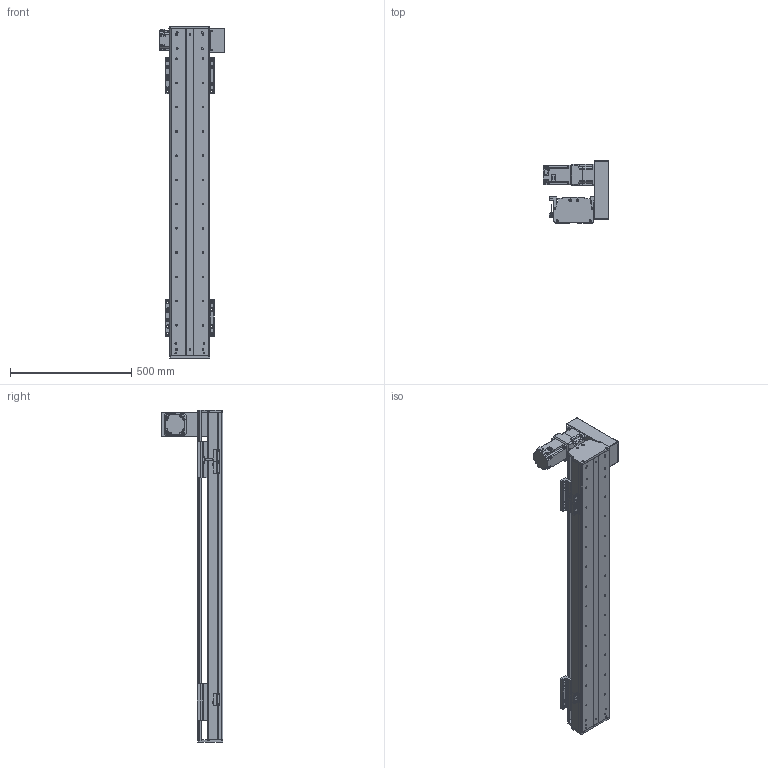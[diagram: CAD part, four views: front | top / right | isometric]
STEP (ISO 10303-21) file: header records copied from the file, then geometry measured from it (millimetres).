
FILE_DESCRIPTION(/* description */ (''),/* implementation_level */ '2;1');
FILE_NAME(/* name */ 'C:\Users\PC\Desktop\3D도면\STEP\새 폴더\DSB165-UR7G-W1000-L.stp',/* time_stamp */ '2018-06-25T15:17:24+09:00',/* author */ ('PC'),/* organization */ (''),/* preprocessor_version */ 'ST-DEVELOPER v16.5',/* originating_system */ 'Autodesk Inventor 2017',/* authorisation */ '');
FILE_SCHEMA (('AUTOMOTIVE_DESIGN { 1 0 10303 214 3 1 1 }'));
Length unit declared in the file: millimetre
Products named in the file (12): DSB165-UL7G-W1000-R_MIR; DSB165-BASE-L_MIR; hg-kr73__MIR; ab0901-p0401300102_MIR; 11-DSB165 BELT COVER_MIR; 12-DSB165-REAR COVER_MIR; 14-DSB165-FRONT COVER_MIR; DSB165-UP COVER_MIR; DSR165-SENSOR DOG_MIR; pm-y65_step_MIR; SENSOR BRACKET(EE-SX674A)_MIR; DSB165-TABLE(MSB20S)_MIR
Assembly tree (16 placements, depth 2):
  DSB165-UL7G-W1000-R_MIR
    DSB165-BASE-L_MIR
    hg-kr73__MIR
    ab0901-p0401300102_MIR
    11-DSB165 BELT COVER_MIR
    12-DSB165-REAR COVER_MIR
    14-DSB165-FRONT COVER_MIR
    DSB165-UP COVER_MIR
    DSR165-SENSOR DOG_MIR
    pm-y65_step_MIR  x3
    SENSOR BRACKET(EE-SX674A)_MIR  x3
    DSB165-TABLE(MSB20S)_MIR  x2
Bounding box: 270 x 254 x 1370 mm (x, y, z)
Volume: 8867023.8 mm3; surface area: 2053109.4 mm2
Topology: 17 solids, 17 shells, 1669 faces, 4484 edges, 2954 vertices
Faces by surface type: plane 921, cylinder 620, cone 116, sphere 8, torus 4
Full cylindrical faces by diameter (mm): 2.459 x20, 3.5 x6, 4.134 x42, 4.5 x18, 5 x27, 5.5 x36, 5.9 x4, 6 x4, 6.6 x14, 6.647 x44, 6.8 x1, 7 x4, 7.6 x4, 8.4 x1, 8.5 x24, 8.7 x1, 9.5 x32, 11 x6, 14 x16, 19 x1, 22 x1, 24 x1, 25 x1, 28 x1, 67 x1, 70 x2, 80 x1
Entity records: 36172 total; most frequent: DIRECTION 6266, CARTESIAN_POINT 6075, ORIENTED_EDGE 5538, EDGE_CURVE 2769, AXIS2_PLACEMENT_3D 2303, VERTEX_POINT 1974, EDGE_LOOP 1735, LINE 1660
